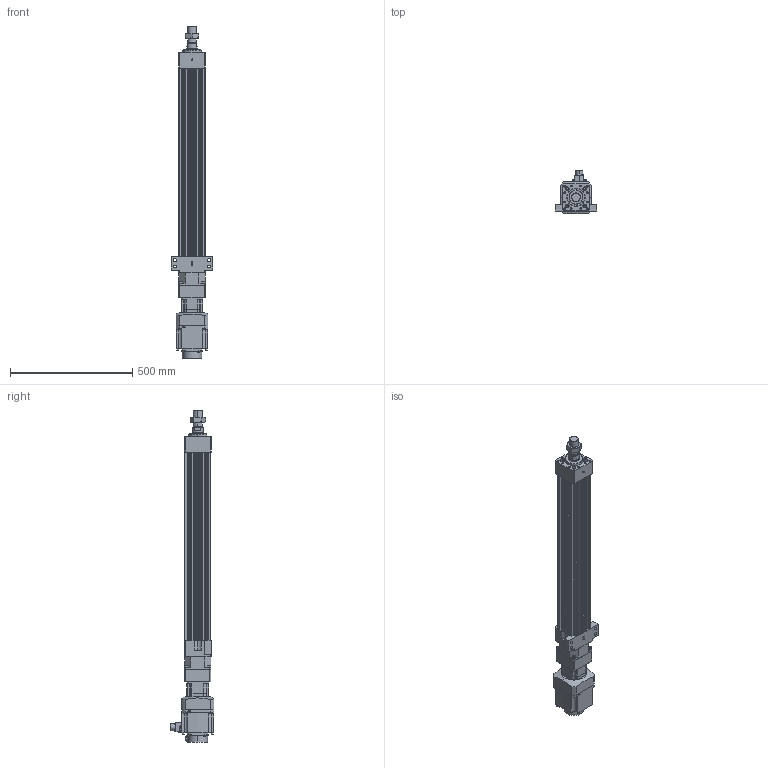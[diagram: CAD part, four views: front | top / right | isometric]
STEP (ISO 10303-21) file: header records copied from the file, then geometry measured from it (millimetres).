
FILE_DESCRIPTION (( 'STEP AP203' ), '1' );
FILE_NAME ('HES110NS(HS)-S600-W010G00-M-FFC.STEP', '2023-01-27T06:46:37', ( 'tms' ), ( '' ), 'SwSTEP 2.0', 'SolidWorks 2013', '' );
FILE_SCHEMA (( 'CONFIG_CONTROL_DESIGN' ));
Length unit declared in the file: millimetre
Products named in the file (8): HES110NS(HS)-S600-W010G00-M-FFC; AB090-003[HG-SR102B]; HES110 ROD M ST600; HES110-S600-G090-FFC; AB0901; HG-SR102; M36X1.5P; P0401301004
Assembly tree (7 placements, depth 3):
  HES110NS(HS)-S600-W010G00-M-FFC
    HES110-S600-G090-FFC
    HES110 ROD M ST600
    M36X1.5P
    AB090-003[HG-SR102B]
      AB0901
      P0401301004
    HG-SR102
Bounding box: 170 x 177.49 x 1358.5 mm (x, y, z)
Volume: 8735887.6 mm3; surface area: 1220172.6 mm2
Topology: 4 solids, 15 shells, 1217 faces, 3075 edges, 1984 vertices
Faces by surface type: plane 556, cylinder 547, cone 102, bspline 8, torus 4
Entity records: 38420 total; most frequent: CARTESIAN_POINT 7442, DIRECTION 6626, ORIENTED_EDGE 6054, EDGE_CURVE 3037, AXIS2_PLACEMENT_3D 2439, VERTEX_POINT 1984, LINE 1748, VECTOR 1748
